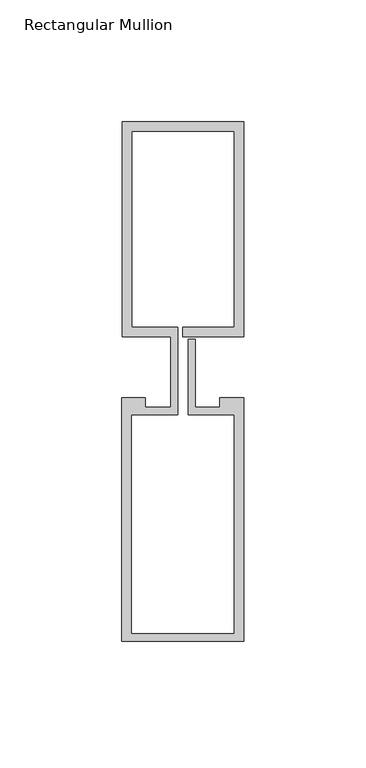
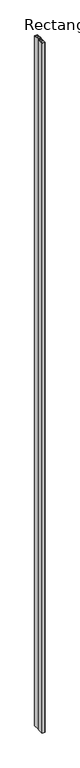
"""IFC4 building model written with IfcOpenShell, lengths in millimetres: member geometry, Rectangular Mullion : Reynaers_CW-50_Mullion-Transom_Horizontal_88.4mm_Facecap-02D."""

from ifc_helpers import new_model, si_unit, frame, origin, place, context, project, spatial, polyline, outline, extrude, source, transform, mapped, element, save


def rectangular_mullion_46f770c1(model_context):
    return source(origin(), model_context, "Body", "SweptSolid", [
        extrude(outline(polyline([(-24.8004059, 100.9), (25.1995941, 100.9), (25.1995941, 12.5), (0.0, 12.5), (0.0, 16.5), (21.1995941, 16.5), (21.1995941, 96.9), (-20.8004059, 96.9), (-20.8004059, 16.5), (-1.9004059, 16.5), (-1.9004059, -19.5), (-20.994845, -19.5), (-20.994845, -109.4191338), (21.1995941, -109.4191338), (21.1995941, -19.5), (2.2995941, -19.5), (2.2995941, 11.5), (5.2995941, 11.5), (5.2995941, -16.5), (15.2996495, -16.5), (15.2996495, -12.5), (25.1995941, -12.5), (25.1995941, -112.5), (-24.994845, -112.5), (-24.994845, -12.5), (-15.2996495, -12.5), (-15.2996495, -16.5), (-4.9004059, -16.5), (-4.9004059, 12.5), (-24.8004059, 12.5), (-24.8004059, 100.9)])), frame((0.0, 0.0, -12000.0), z_axis=(0.0, 0.0, 1.0), x_axis=(1.0, 0.0, 0.0)), (0.0, 0.0, 1.0), 12000.0),
    ])


if __name__ == "__main__":
    model = new_model("IFC4")
    model_context = context("Model", 3, world=origin())
    ifc_project = project(units=[si_unit("LENGTHUNIT", "METRE", prefix="MILLI")], contexts=[model_context])
    site = spatial("IfcSite", under=ifc_project)
    building = spatial("IfcBuilding", under=site)
    placement = place(None, origin())
    rectangular_mullion_shape = rectangular_mullion_46f770c1(model_context)
    element("IfcMember", 1, ObjectType="Rectangular Mullion : Reynaers_CW-50_Mullion-Transom_Horizontal_88.4mm_Facecap-02D", at=placement, inside=building, context=model_context, shape_type="MappedRepresentation", body=[
        mapped(rectangular_mullion_shape, transform((0.0, 0.0, 0.0), x_axis=(1.0, 0.0, 0.0), y_axis=(0.0, 1.0, 0.0), z_axis=(0.0, 0.0, 1.0))),
    ])
    save(model, "model.ifc")
